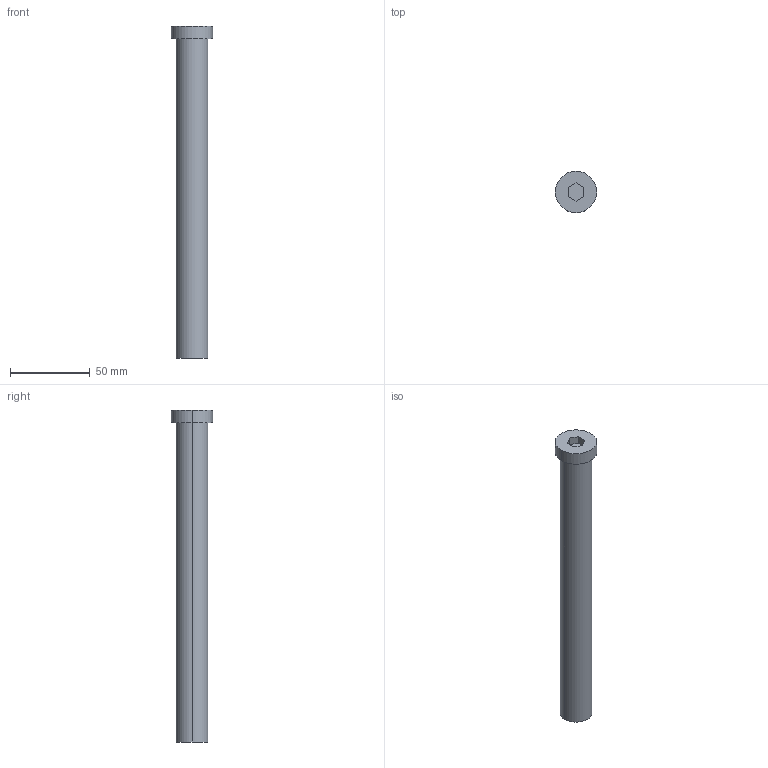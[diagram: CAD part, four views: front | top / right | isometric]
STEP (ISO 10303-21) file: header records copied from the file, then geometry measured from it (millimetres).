
FILE_DESCRIPTION (( 'STEP AP214' ), '1' );
FILE_NAME ('BruyRubio_TGH__20_x_200_-_M-12.STEP', '2019-12-22T23:38:25', ( '' ), ( '' ), 'SwSTEP 2.0', 'SolidWorks 2017', '' );
FILE_SCHEMA (( 'AUTOMOTIVE_DESIGN' ));
Length unit declared in the file: millimetre
Products named in the file (1): BruyRubio_TGH__20_x_200_-_M-12
Bounding box: 26 x 26 x 208 mm (x, y, z)
Volume: 64343.7 mm3; surface area: 17304.3 mm2
Topology: 2 solids, 2 shells, 27 faces, 58 edges, 37 vertices
Faces by surface type: plane 13, cylinder 12, cone 2
Entity records: 1070 total; most frequent: DIRECTION 136, CARTESIAN_POINT 121, ORIENTED_EDGE 112, EDGE_CURVE 56, AXIS2_PLACEMENT_3D 52, VERTEX_POINT 37, EDGE_LOOP 33, VECTOR 32
